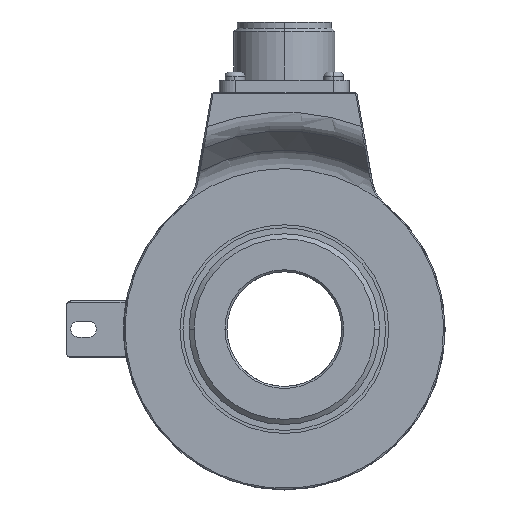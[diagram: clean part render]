
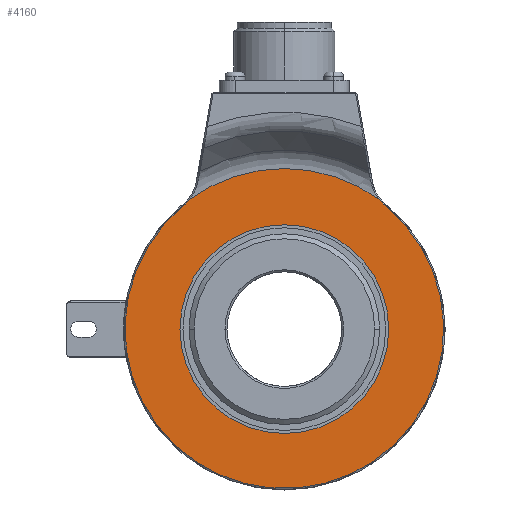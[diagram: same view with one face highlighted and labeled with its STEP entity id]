
A CAD part, left-side view. The second image highlights one B-rep face of the part: STEP entity #4160.
In plain terms, the highlighted planar face has unit normal (-1, 0, 0).
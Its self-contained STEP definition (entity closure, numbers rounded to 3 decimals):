
#54 = ORIENTED_EDGE ( 'NONE', *, *, #15648, .T. ) ;
#151 = DIRECTION ( 'NONE',  ( 0., 0., -1. ) ) ;
#174 = CARTESIAN_POINT ( 'NONE',  ( -26., 0., 0. ) ) ;
#381 = DIRECTION ( 'NONE',  ( 0., 0., -1. ) ) ;
#452 = DIRECTION ( 'NONE',  ( 0., 0., -1. ) ) ;
#726 = EDGE_CURVE ( 'NONE', #4615, #1467, #13234, .T. ) ;
#799 = ORIENTED_EDGE ( 'NONE', *, *, #11481, .T. ) ;
#907 = DIRECTION ( 'NONE',  ( 1., 0., 0. ) ) ;
#980 = CARTESIAN_POINT ( 'NONE',  ( -26., 0., -26. ) ) ;
#1202 = DIRECTION ( 'NONE',  ( 0., 0., -1. ) ) ;
#1467 = VERTEX_POINT ( 'NONE', #10365 ) ;
#1983 = DIRECTION ( 'NONE',  ( -1., 0., 0. ) ) ;
#2075 = CIRCLE ( 'NONE', #13504, 39.7 ) ;
#2105 = DIRECTION ( 'NONE',  ( 0., 0., -1. ) ) ;
#2138 = EDGE_LOOP ( 'NONE', ( #799, #2635, #54, #10099 ) ) ;
#2635 = ORIENTED_EDGE ( 'NONE', *, *, #726, .T. ) ;
#2934 = VERTEX_POINT ( 'NONE', #6433 ) ;
#3116 = AXIS2_PLACEMENT_3D ( 'NONE', #6820, #9806, #12974 ) ;
#3343 = FACE_BOUND ( 'NONE', #12536, .T. ) ;
#3537 = CARTESIAN_POINT ( 'NONE',  ( -26., 0., 0. ) ) ;
#4160 = ADVANCED_FACE ( 'NONE', ( #3343, #16122 ), #6588, .T. ) ;
#4615 = VERTEX_POINT ( 'NONE', #8683 ) ;
#4709 = CIRCLE ( 'NONE', #7317, 10.3 ) ;
#5011 = EDGE_CURVE ( 'NONE', #12405, #9255, #6469, .T. ) ;
#5630 = CIRCLE ( 'NONE', #20022, 40. ) ;
#6433 = CARTESIAN_POINT ( 'NONE',  ( -26., 23.654, 32.257 ) ) ;
#6469 = CIRCLE ( 'NONE', #8772, 26. ) ;
#6588 = PLANE ( 'NONE',  #14941 ) ;
#6820 = CARTESIAN_POINT ( 'NONE',  ( -26., -31.746, 38.629 ) ) ;
#6871 = AXIS2_PLACEMENT_3D ( 'NONE', #3537, #18990, #151 ) ;
#7185 = DIRECTION ( 'NONE',  ( -1., 0., 0. ) ) ;
#7317 = AXIS2_PLACEMENT_3D ( 'NONE', #10610, #907, #1202 ) ;
#7392 = CARTESIAN_POINT ( 'NONE',  ( -26., 0., 0. ) ) ;
#7626 = EDGE_CURVE ( 'NONE', #9255, #12405, #11782, .T. ) ;
#8683 = CARTESIAN_POINT ( 'NONE',  ( -26., -25.207, 30.671 ) ) ;
#8772 = AXIS2_PLACEMENT_3D ( 'NONE', #11419, #17674, #381 ) ;
#9255 = VERTEX_POINT ( 'NONE', #980 ) ;
#9572 = DIRECTION ( 'NONE',  ( -1., 0., 0. ) ) ;
#9749 = CARTESIAN_POINT ( 'NONE',  ( -26., 0., 0. ) ) ;
#9806 = DIRECTION ( 'NONE',  ( 1., 0., 0. ) ) ;
#10099 = ORIENTED_EDGE ( 'NONE', *, *, #18007, .T. ) ;
#10365 = CARTESIAN_POINT ( 'NONE',  ( -26., -23.654, 32.257 ) ) ;
#10610 = CARTESIAN_POINT ( 'NONE',  ( -26., 31.746, 38.629 ) ) ;
#11419 = CARTESIAN_POINT ( 'NONE',  ( -26., 0., 0. ) ) ;
#11481 = EDGE_CURVE ( 'NONE', #14810, #4615, #2075, .T. ) ;
#11782 = CIRCLE ( 'NONE', #6871, 26. ) ;
#12405 = VERTEX_POINT ( 'NONE', #14675 ) ;
#12536 = EDGE_LOOP ( 'NONE', ( #17569, #12786 ) ) ;
#12786 = ORIENTED_EDGE ( 'NONE', *, *, #5011, .F. ) ;
#12974 = DIRECTION ( 'NONE',  ( 0., 0., -1. ) ) ;
#13234 = CIRCLE ( 'NONE', #3116, 10.3 ) ;
#13504 = AXIS2_PLACEMENT_3D ( 'NONE', #7392, #7185, #18367 ) ;
#14675 = CARTESIAN_POINT ( 'NONE',  ( -26., 0., 26. ) ) ;
#14810 = VERTEX_POINT ( 'NONE', #15975 ) ;
#14941 = AXIS2_PLACEMENT_3D ( 'NONE', #174, #9572, #2105 ) ;
#15648 = EDGE_CURVE ( 'NONE', #1467, #2934, #5630, .T. ) ;
#15975 = CARTESIAN_POINT ( 'NONE',  ( -26., 25.207, 30.671 ) ) ;
#16122 = FACE_OUTER_BOUND ( 'NONE', #2138, .T. ) ;
#17569 = ORIENTED_EDGE ( 'NONE', *, *, #7626, .F. ) ;
#17674 = DIRECTION ( 'NONE',  ( -1., 0., 0. ) ) ;
#18007 = EDGE_CURVE ( 'NONE', #2934, #14810, #4709, .T. ) ;
#18367 = DIRECTION ( 'NONE',  ( 0., 0., -1. ) ) ;
#18990 = DIRECTION ( 'NONE',  ( -1., 0., 0. ) ) ;
#20022 = AXIS2_PLACEMENT_3D ( 'NONE', #9749, #1983, #452 ) ;
